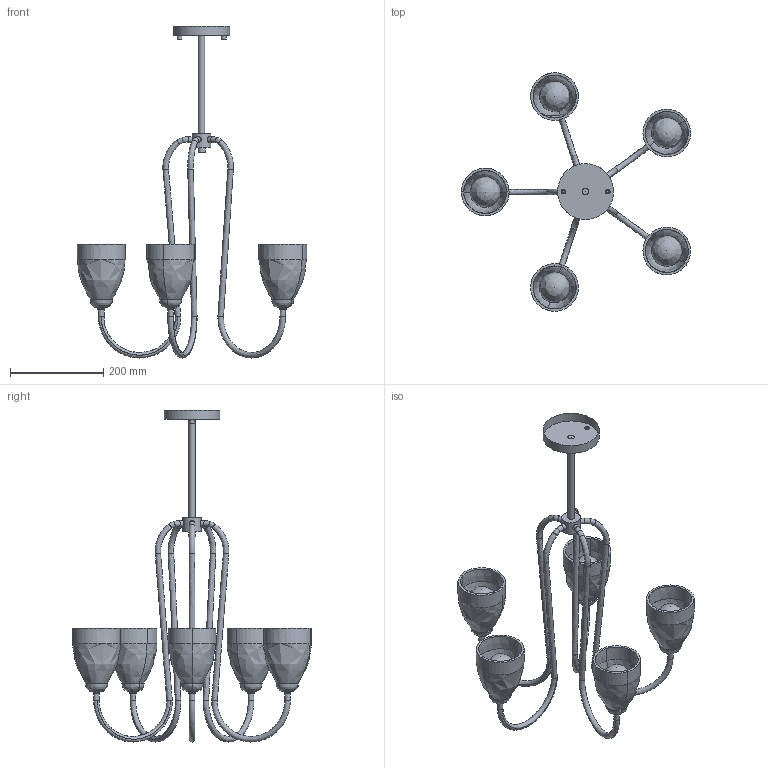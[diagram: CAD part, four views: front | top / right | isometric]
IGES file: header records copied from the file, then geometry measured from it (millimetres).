
Global section: file name: Z:\; native system: Rhinoceros ( Nov 10 2025 ); preprocessor: Trout Lake IGES 012 Nov 10 2025; date: 260625.094522; units: millimetre
Bounding box: 491.57 x 511.58 x 711.91 mm (x, y, z)
Surface area: 677432.5 mm2 (no closed solid volume)
Topology: 0 solids, 0 shells, 409 faces, 2414 edges, 2081 vertices
Faces by surface type: bspline 409
